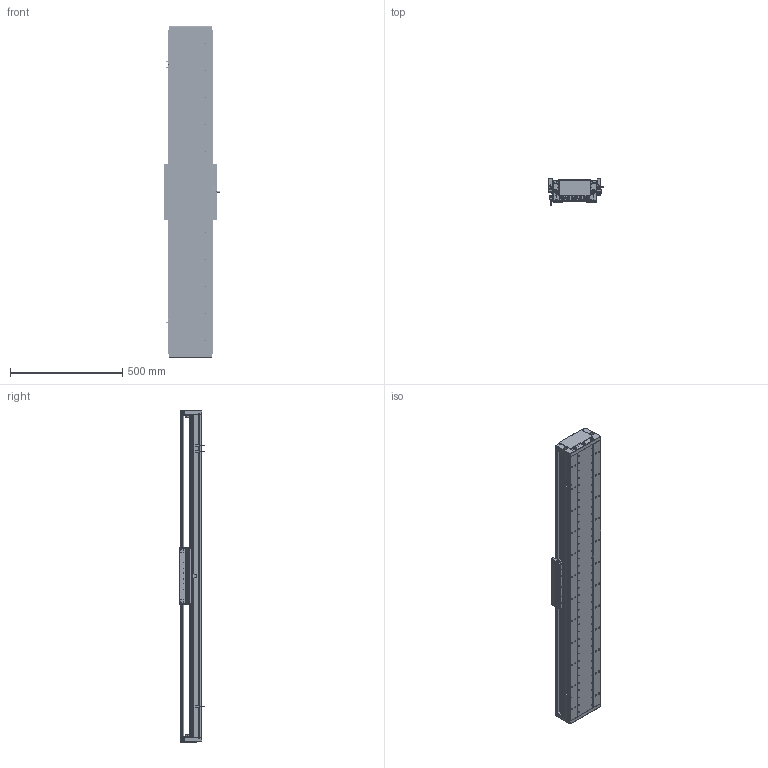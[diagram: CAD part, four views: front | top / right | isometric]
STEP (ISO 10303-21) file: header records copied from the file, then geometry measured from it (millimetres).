
FILE_DESCRIPTION (( 'STEP AP203' ), '1' );
FILE_NAME ('DA-C195-C3-T1140-C010-0.2 眻盄萇儂.STEP', '2025-08-15T01:39:55', ( '' ), ( '' ), 'SwSTEP 2.0', 'SolidWorks 2019', '' );
FILE_SCHEMA (( 'CONFIG_CONTROL_DESIGN' ));
Length unit declared in the file: millimetre
Products named in the file (12): DA-C195-C3-T1140-C010-0.2 眻盄萇儂; IU-CU195-L 菁釱絳寢; DA95-HXJ-00 遣喳砎蝶; 66156-0001-003-00 裔啣; 葩璃 DA95-GT-T-00; CU195-C3賑輸-俋楷; DA165-GYP-00 光电感应片(默认); MS200 棠掑喜S315-T240; PM-T45ㄗ侂狟ㄘ; DA195-DG-H-00  端盖（压铸镂空版）; LMT黍杅芛; IU-CU195-L-00 菁釱(L1440)
Assembly tree (20 placements, depth 3):
  DA-C195-C3-T1140-C010-0.2 眻盄萇儂
    IU-CU195-L 菁釱絳寢
      IU-CU195-L-00 菁釱(L1440)
      葩璃 DA95-GT-T-00  x4
    LMT黍杅芛
    MS200 棠掑喜S315-T240
    PM-T45ㄗ侂狟ㄘ  x3
    DA165-GYP-00 光电感应片(默认)
    DA195-DG-H-00  端盖（压铸镂空版）  x2
    DA95-HXJ-00 遣喳砎蝶  x4
    66156-0001-003-00 裔啣
    CU195-C3賑輸-俋楷
Bounding box: 248 x 115.6 x 1480 mm (x, y, z)
Volume: 10422716.1 mm3; surface area: 2958287 mm2
Topology: 78 solids, 118 shells, 5305 faces, 13768 edges, 8403 vertices
Faces by surface type: cylinder 2368, plane 1603, bspline 710, cone 544, torus 44, sphere 36
Entity records: 149749 total; most frequent: CARTESIAN_POINT 47017, ORIENTED_EDGE 21622, DIRECTION 20534, EDGE_CURVE 10811, AXIS2_PLACEMENT_3D 7647, VERTEX_POINT 6833, VECTOR 5240, LINE 5240
